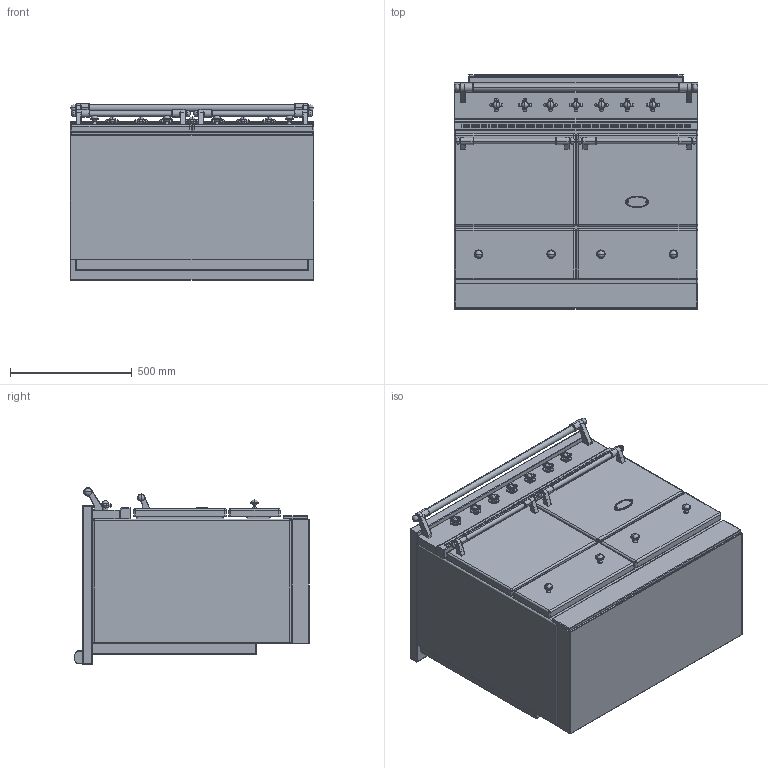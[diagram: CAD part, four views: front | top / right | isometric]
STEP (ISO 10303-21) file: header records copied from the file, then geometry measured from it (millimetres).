
FILE_DESCRIPTION((''),'2;1');
FILE_NAME('LVI1052_ASM','2021-12-01T13:53:13',('r.avril'),(''),'CREO PARAMETRIC BY PTC INC, 2017260','CREO PARAMETRIC BY PTC INC, 2017260','');
FILE_SCHEMA(('AP203_CONFIGURATION_CONTROLLED_3D_DESIGN_OF_MECHANICAL_PARTS_AND_ASSEMBLIES_MIM_LF { 1 0 10303 403 2 1 2 }'));
Products named in the file (18): BASE_EXPORT_CLUNY; 65650003; 65650004; 6531940; 6531941; 6538399; 1931942; 65080022_AF0; 6531942_ASM; 6531943; 65049009; 65650001; BASE_EXPORT_CLUNY_ASM; TABLE_1000_INDUCTION; 65052013; CHEMINEE_2020_LG882_EXPORT_STEP; TABLE_1000_INDUCTION_ASM; LVI1052_ASM
Assembly tree (28 placements, depth 4):
  LVI1052_ASM
    BASE_EXPORT_CLUNY_ASM
      BASE_EXPORT_CLUNY
      65650003
      65650004
      6531940  x2
      6531941  x2
      6531942_ASM  x7
        6538399
        1931942
        65080022_AF0
      6531943  x4
      65049009
      65650001
    TABLE_1000_INDUCTION_ASM
      TABLE_1000_INDUCTION
      65052013
      CHEMINEE_2020_LG882_EXPORT_STEP
Bounding box: 1000 x 963 x 724 mm (x, y, z)
Volume: 540242293.6 mm3; surface area: 9011778.9 mm2
Topology: 44 solids, 54 shells, 4954 faces, 13450 edges, 8627 vertices
Faces by surface type: plane 2651, cylinder 1539, torus 203, extrusion 198, sphere 188, cone 87, bspline 76, revolution 12
Entity records: 113575 total; most frequent: CARTESIAN_POINT 24474, ORIENTED_EDGE 16084, DIRECTION 15235, EDGE_CURVE 8052, VECTOR 5534, LINE 5504, VERTEX_POINT 5233, AXIS2_PLACEMENT_3D 4821
